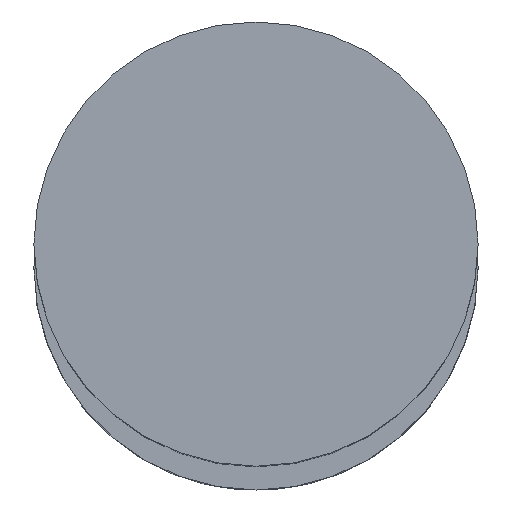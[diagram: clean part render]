
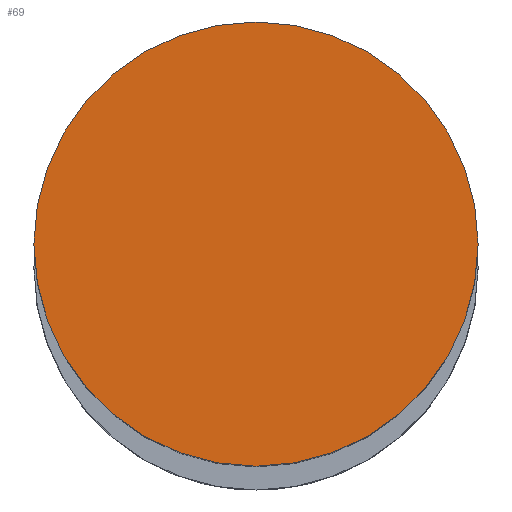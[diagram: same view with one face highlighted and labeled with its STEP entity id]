
A CAD part, top view. The second image highlights one B-rep face of the part: STEP entity #69.
In plain terms, the highlighted planar face has unit normal (0, 0, 1).
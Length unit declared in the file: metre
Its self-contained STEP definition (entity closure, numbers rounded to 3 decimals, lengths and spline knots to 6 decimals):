
#69=ADVANCED_FACE('0:129',(#145),#146,.T.);
#145=FACE_OUTER_BOUND('',#237,.T.);
#146=PLANE('',#238);
#237=EDGE_LOOP('',(#346,#347));
#238=AXIS2_PLACEMENT_3D('',#348,#349,#350);
#346=ORIENTED_EDGE('',*,*,#522,.F.);
#347=ORIENTED_EDGE('',*,*,#524,.F.);
#348=CARTESIAN_POINT('',(0.,0.,0.419));
#349=DIRECTION('',(0.0,0.0,1.0));
#350=DIRECTION('',(1.0,0.0,0.0));
#522=EDGE_CURVE('13:581',#622,#618,#624,.F.);
#524=EDGE_CURVE('',#618,#622,#626,.F.);
#618=VERTEX_POINT('',#750);
#622=VERTEX_POINT('',#755);
#624=CIRCLE('',#758,0.008);
#626=CIRCLE('',#760,0.008);
#750=CARTESIAN_POINT('',(0.00789,0.000133,0.419));
#755=CARTESIAN_POINT('',(-0.00811,0.000133,0.419));
#758=AXIS2_PLACEMENT_3D('',#888,#889,#890);
#760=AXIS2_PLACEMENT_3D('',#891,#892,#893);
#888=CARTESIAN_POINT('',(-0.00011,0.000133,0.419));
#889=DIRECTION('',(0.0,0.0,1.0));
#890=DIRECTION('',(1.0,0.0,0.0));
#891=CARTESIAN_POINT('',(-0.00011,0.000133,0.419));
#892=DIRECTION('',(0.0,0.0,1.0));
#893=DIRECTION('',(1.0,0.0,0.0));
